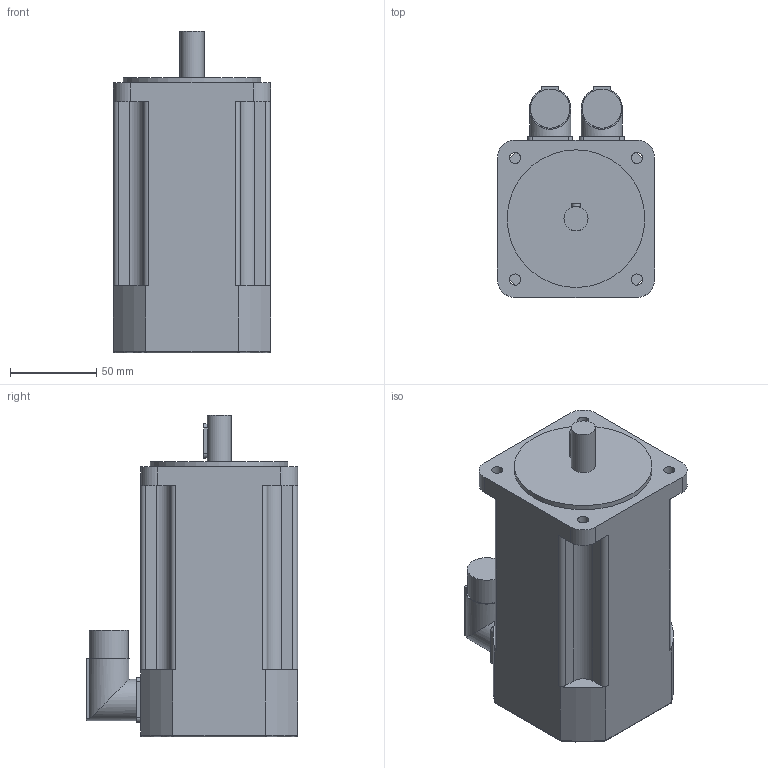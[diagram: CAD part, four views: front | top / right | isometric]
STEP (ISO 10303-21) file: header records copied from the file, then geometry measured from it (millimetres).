
FILE_DESCRIPTION(/* description */ (''),/* implementation_level */ '2;1');
FILE_NAME(/* name */ '\\Lafnas01\disegni\Archivi Lafert\3D\CAD 3D\MODELLI\Assiemi clienti\Serad\Modelli 3D Serad\B56Q\Resolver\Res With Brake\B56E3Qxx6B052033.ipt.stp',/* time_stamp */ '2015-09-07T10:50:16+02:00',/* author */ ('Pastrello Ylenia'),/* organization */ (''),/* preprocessor_version */ 'ST-DEVELOPER v15.6',/* originating_system */ 'Autodesk Inventor 2015',/* authorisation */ '');
FILE_SCHEMA (('AUTOMOTIVE_DESIGN { 1 0 10303 214 3 1 1 }'));
Length unit declared in the file: millimetre
Products named in the file (1): B56E3Qxx6B052033
Bounding box: 91.3 x 122.8 x 187 mm (x, y, z)
Volume: 1229345.7 mm3; surface area: 82362.3 mm2
Topology: 1 solids, 1 shells, 99 faces, 260 edges, 170 vertices
Faces by surface type: plane 49, cylinder 46, torus 4
Full cylindrical faces by diameter (mm): 6.5 x4, 14 x1, 22.7 x2, 24 x2, 80 x1
Entity records: 3176 total; most frequent: CARTESIAN_POINT 658, DIRECTION 534, ORIENTED_EDGE 500, EDGE_CURVE 250, AXIS2_PLACEMENT_3D 194, VERTEX_POINT 170, LINE 146, VECTOR 146
